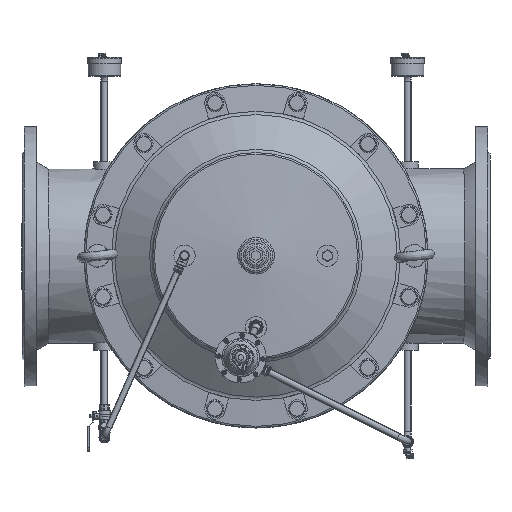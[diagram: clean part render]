
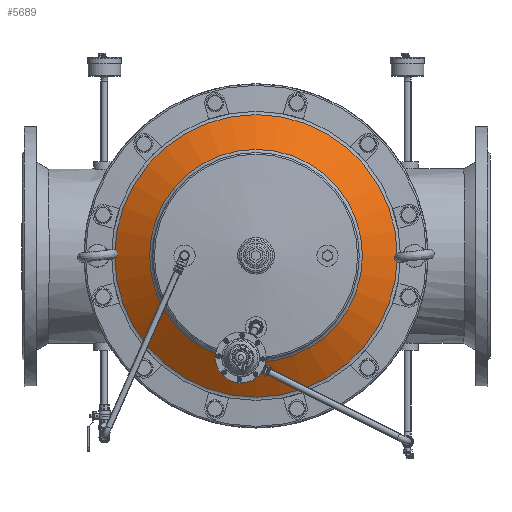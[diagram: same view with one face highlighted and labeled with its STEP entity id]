
A CAD part, top view. The second image highlights one B-rep face of the part: STEP entity #5689.
In plain terms, the highlighted conical face has half-angle 56.75 degrees and reference radius 193.161 mm.
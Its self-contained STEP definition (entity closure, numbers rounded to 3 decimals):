
#5689=ADVANCED_FACE('',(#19405,#19407),#19409,.T.);
#19405=FACE_OUTER_BOUND('',#19406,.T.);
#19406=EDGE_LOOP('',(#43596));
#19407=FACE_OUTER_BOUND('',#19408,.T.);
#19408=EDGE_LOOP('',(#43597));
#19409=CONICAL_SURFACE('',#19410,193.161,0.99);
#19410=AXIS2_PLACEMENT_3D('',#19411,#19412,#19413);
#19411=CARTESIAN_POINT('',(0.,-34.356,0.));
#19412=DIRECTION('',(0.,1.,0.));
#19413=DIRECTION('',(-1.,0.,0.));
#43596=ORIENTED_EDGE('',*,*,#50657,.F.);
#43597=ORIENTED_EDGE('',*,*,#50639,.F.);
#50639=EDGE_CURVE('',#55720,#55720,#55721,.T.);
#50657=EDGE_CURVE('',#55756,#55756,#55757,.F.);
#55720=VERTEX_POINT('',#81113);
#55721=CIRCLE('',#81114,165.969);
#55756=VERTEX_POINT('',#81203);
#55757=CIRCLE('',#81204,220.354);
#81113=CARTESIAN_POINT('',(165.969,-52.184,0.));
#81114=AXIS2_PLACEMENT_3D('',#81115,#81116,#81117);
#81115=CARTESIAN_POINT('',(0.,-52.184,0.));
#81116=DIRECTION('',(0.,-1.,0.));
#81117=DIRECTION('',(1.,0.,0.));
#81203=CARTESIAN_POINT('',(220.354,-16.527,0.));
#81204=AXIS2_PLACEMENT_3D('',#81205,#81206,#81207);
#81205=CARTESIAN_POINT('',(0.,-16.527,0.));
#81206=DIRECTION('',(0.,-1.,0.));
#81207=DIRECTION('',(1.,0.,0.));
